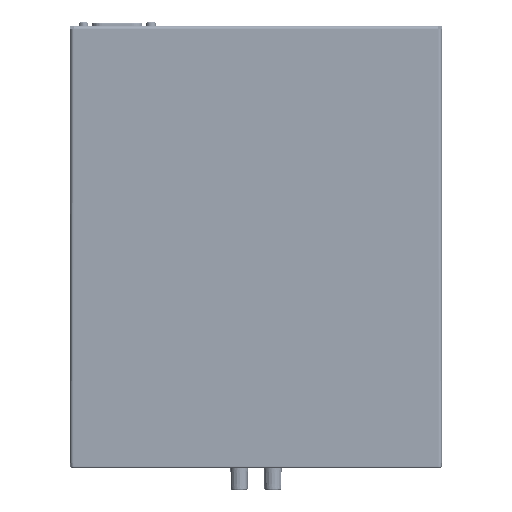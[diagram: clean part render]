
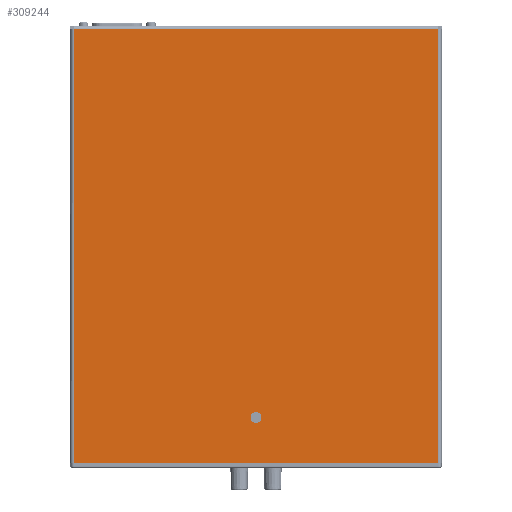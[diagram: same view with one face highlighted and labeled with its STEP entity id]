
A CAD part, front view. The second image highlights one B-rep face of the part: STEP entity #309244.
In plain terms, the highlighted planar face has unit normal (0, -1, 0).
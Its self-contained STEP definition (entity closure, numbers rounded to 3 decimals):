
#5546 = CARTESIAN_POINT ( 'NONE',  ( 108.1, 0., -259.065 ) ) ;
#12164 = ORIENTED_EDGE ( 'NONE', *, *, #209240, .F. ) ;
#23141 = ORIENTED_EDGE ( 'NONE', *, *, #228240, .T. ) ;
#23951 = CARTESIAN_POINT ( 'NONE',  ( -2.7, 0., -232.1 ) ) ;
#24464 = DIRECTION ( 'NONE',  ( 0., 0., 1. ) ) ;
#24737 = VERTEX_POINT ( 'NONE', #201121 ) ;
#30801 = DIRECTION ( 'NONE',  ( 1., 0., 0. ) ) ;
#34188 = ORIENTED_EDGE ( 'NONE', *, *, #192736, .T. ) ;
#36886 = VECTOR ( 'NONE', #24464, 1000. ) ;
#44302 = ORIENTED_EDGE ( 'NONE', *, *, #207325, .T. ) ;
#48432 = EDGE_CURVE ( 'NONE', #352657, #278682, #66815, .T. ) ;
#50617 = DIRECTION ( 'NONE',  ( 0., -1., 0. ) ) ;
#58069 = DIRECTION ( 'NONE',  ( 1., 0., 0. ) ) ;
#63705 = CIRCLE ( 'NONE', #347730, 2.7 ) ;
#66815 = LINE ( 'NONE', #146543, #87716 ) ;
#70016 = CARTESIAN_POINT ( 'NONE',  ( -108.1, 0., -259.065 ) ) ;
#87716 = VECTOR ( 'NONE', #151996, 1000. ) ;
#89404 = EDGE_CURVE ( 'NONE', #281046, #337689, #63705, .T. ) ;
#89660 = ORIENTED_EDGE ( 'NONE', *, *, #89404, .F. ) ;
#91193 = EDGE_LOOP ( 'NONE', ( #259849, #44302, #227476, #23141, #207244, #34188 ) ) ;
#101097 = CARTESIAN_POINT ( 'NONE',  ( 108.1, 0., -259.1 ) ) ;
#104912 = VERTEX_POINT ( 'NONE', #317327 ) ;
#109633 = CARTESIAN_POINT ( 'NONE',  ( -108.1, 0., -259.1 ) ) ;
#118514 = CARTESIAN_POINT ( 'NONE',  ( 2.7, 0., -232.1 ) ) ;
#122723 = LINE ( 'NONE', #202472, #238556 ) ;
#124304 = EDGE_CURVE ( 'NONE', #294244, #104912, #172519, .T. ) ;
#125166 = FACE_OUTER_BOUND ( 'NONE', #91193, .T. ) ;
#137147 = EDGE_LOOP ( 'NONE', ( #89660, #12164 ) ) ;
#146543 = CARTESIAN_POINT ( 'NONE',  ( -110.1, 0., -259.1 ) ) ;
#151996 = DIRECTION ( 'NONE',  ( 1., 0., 0. ) ) ;
#152983 = DIRECTION ( 'NONE',  ( 1., 0., 0. ) ) ;
#156680 = DIRECTION ( 'NONE',  ( 0., 0., 1. ) ) ;
#158652 = AXIS2_PLACEMENT_3D ( 'NONE', #207889, #263531, #317371 ) ;
#161791 = CARTESIAN_POINT ( 'NONE',  ( 107.837, 0., -258.1 ) ) ;
#172519 = LINE ( 'NONE', #109633, #36886 ) ;
#174643 = DIRECTION ( 'NONE',  ( -1., 0., 0. ) ) ;
#180775 = PLANE ( 'NONE',  #200236 ) ;
#192736 = EDGE_CURVE ( 'NONE', #294244, #352657, #354113, .T. ) ;
#200236 = AXIS2_PLACEMENT_3D ( 'NONE', #241880, #214027, #152983 ) ;
#201121 = CARTESIAN_POINT ( 'NONE',  ( 108.1, 0., -2. ) ) ;
#202472 = CARTESIAN_POINT ( 'NONE',  ( 108.1, 0., -2. ) ) ;
#205791 = CARTESIAN_POINT ( 'NONE',  ( -107.837, 0., -259.1 ) ) ;
#207244 = ORIENTED_EDGE ( 'NONE', *, *, #124304, .F. ) ;
#207325 = EDGE_CURVE ( 'NONE', #278682, #364377, #311202, .T. ) ;
#207889 = CARTESIAN_POINT ( 'NONE',  ( -107.837, 0., -258.1 ) ) ;
#209240 = EDGE_CURVE ( 'NONE', #337689, #281046, #246867, .T. ) ;
#214027 = DIRECTION ( 'NONE',  ( 0., -1., 0. ) ) ;
#219419 = VECTOR ( 'NONE', #156680, 1000. ) ;
#227476 = ORIENTED_EDGE ( 'NONE', *, *, #274956, .T. ) ;
#228240 = EDGE_CURVE ( 'NONE', #24737, #104912, #122723, .T. ) ;
#238556 = VECTOR ( 'NONE', #174643, 1000. ) ;
#241880 = CARTESIAN_POINT ( 'NONE',  ( -110.1, 0., -259.1 ) ) ;
#246867 = CIRCLE ( 'NONE', #294206, 2.7 ) ;
#259849 = ORIENTED_EDGE ( 'NONE', *, *, #48432, .T. ) ;
#262139 = CARTESIAN_POINT ( 'NONE',  ( 107.837, 0., -259.1 ) ) ;
#263531 = DIRECTION ( 'NONE',  ( 0., -1., 0. ) ) ;
#274956 = EDGE_CURVE ( 'NONE', #364377, #24737, #360410, .T. ) ;
#278682 = VERTEX_POINT ( 'NONE', #262139 ) ;
#281046 = VERTEX_POINT ( 'NONE', #23951 ) ;
#284590 = DIRECTION ( 'NONE',  ( 0., -1., 0. ) ) ;
#294206 = AXIS2_PLACEMENT_3D ( 'NONE', #313778, #315596, #58069 ) ;
#294244 = VERTEX_POINT ( 'NONE', #70016 ) ;
#309244 = ADVANCED_FACE ( 'NONE', ( #321672, #125166 ), #180775, .T. ) ;
#311202 = CIRCLE ( 'NONE', #358451, 1. ) ;
#313778 = CARTESIAN_POINT ( 'NONE',  ( 0., 0., -232.1 ) ) ;
#315596 = DIRECTION ( 'NONE',  ( 0., -1., 0. ) ) ;
#316082 = CARTESIAN_POINT ( 'NONE',  ( 0., 0., -232.1 ) ) ;
#317327 = CARTESIAN_POINT ( 'NONE',  ( -108.1, 0., -2. ) ) ;
#317371 = DIRECTION ( 'NONE',  ( 1., 0., 0. ) ) ;
#321672 = FACE_BOUND ( 'NONE', #137147, .T. ) ;
#332297 = DIRECTION ( 'NONE',  ( 1., 0., 0. ) ) ;
#337689 = VERTEX_POINT ( 'NONE', #118514 ) ;
#347730 = AXIS2_PLACEMENT_3D ( 'NONE', #316082, #284590, #30801 ) ;
#352657 = VERTEX_POINT ( 'NONE', #205791 ) ;
#354113 = CIRCLE ( 'NONE', #158652, 1. ) ;
#358451 = AXIS2_PLACEMENT_3D ( 'NONE', #161791, #50617, #332297 ) ;
#360410 = LINE ( 'NONE', #101097, #219419 ) ;
#364377 = VERTEX_POINT ( 'NONE', #5546 ) ;
